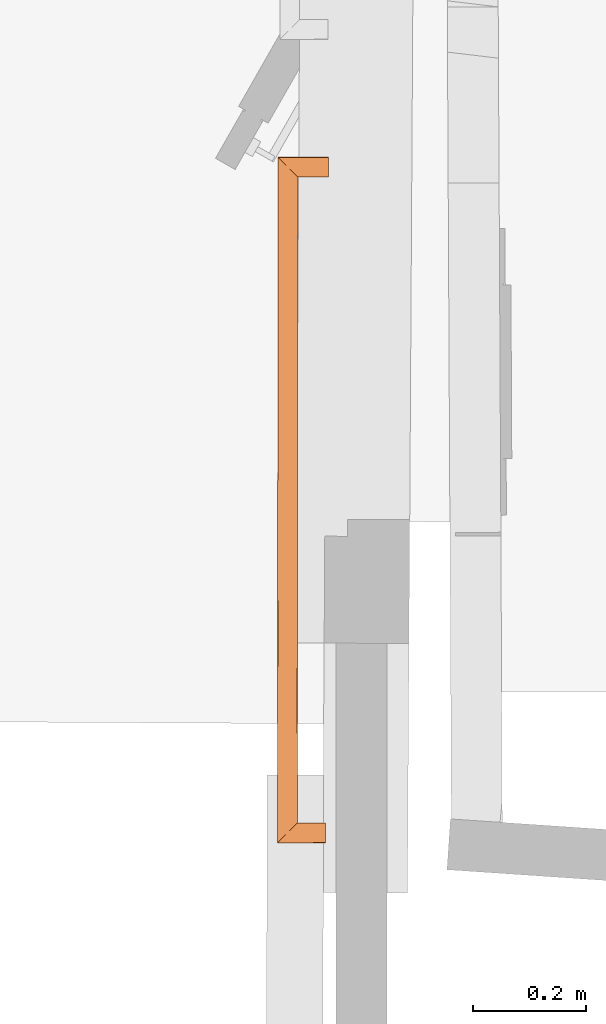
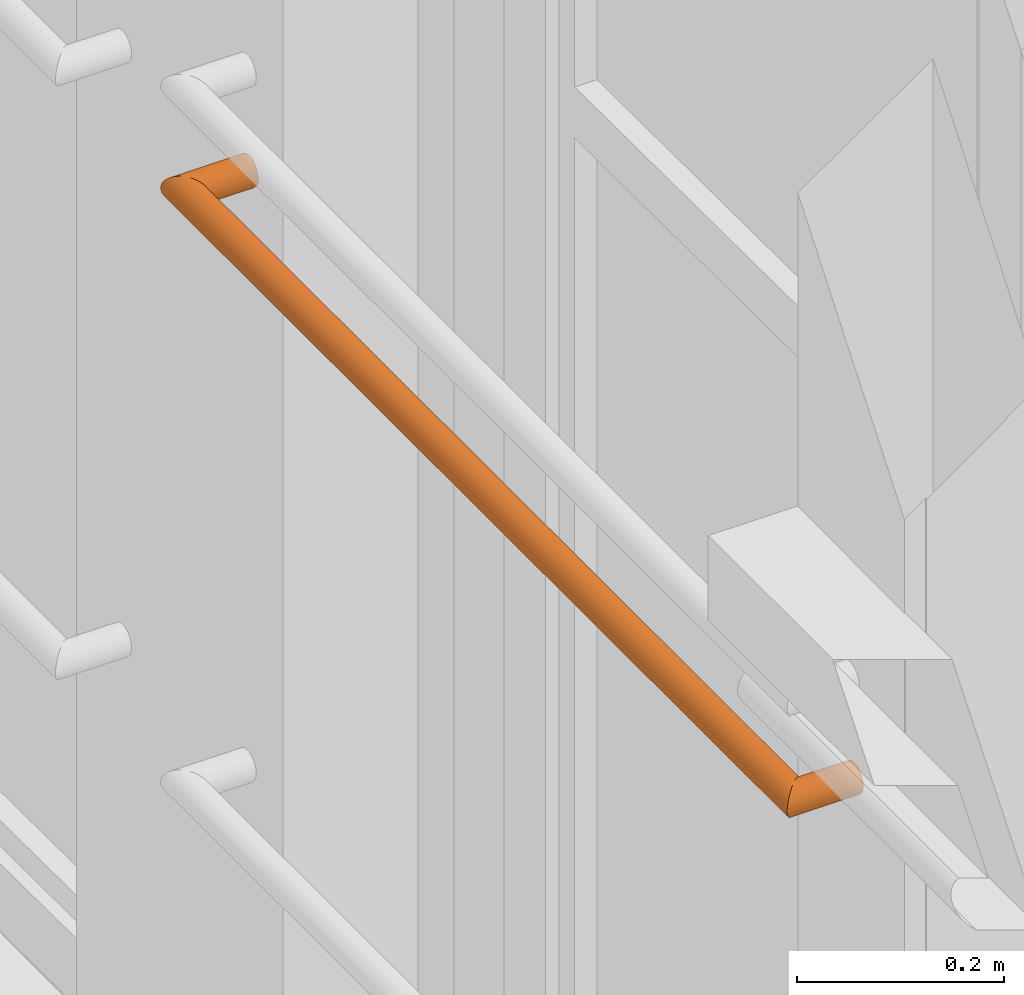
# One storey, part 85 of 97: 1 proxy.
"""IFC2X3 building model written with IfcOpenShell, lengths in centimetres."""

from ifc_helpers import new_model, entity, si_unit, converted_unit, direction, origin, origin_with_axes, place, context, subcontext, project, spatial, faceted_brep, material, type_object, element, save


model = new_model("IFC2X3")

# Units and contexts
model_context = context("Model", 3, precision=0.0001, world=origin(), true_north=direction((0.225632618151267, 0.974212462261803, 0.0)))
body_context = subcontext(model_context, "Body", "Model", "MODEL_VIEW")
ifc_project = project(units=[si_unit("LENGTHUNIT", "METRE", prefix="CENTI"), si_unit("AREAUNIT", "SQUARE_METRE", prefix="CENTI"), si_unit("VOLUMEUNIT", "CUBIC_METRE", prefix="CENTI"), converted_unit("PLANEANGLEUNIT", "DEGREE", entity("IfcRatioMeasure", 0.0174532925), si_unit("PLANEANGLEUNIT", "RADIAN"), dimensions=[0, 0, 0, 0, 0, 0, 0])], contexts=[model_context])

# Site, building, storey
site_placement = place(None, origin_with_axes())
site = spatial("IfcSite", under=ifc_project, at=site_placement, Name="Default Site", CompositionType="ELEMENT")
building_placement = place(site_placement, origin_with_axes())
building = spatial("IfcBuilding", under=site, at=building_placement, Name="Default Building", CompositionType="ELEMENT")
storey_placement = place(building_placement, origin_with_axes())
storey = spatial("IfcBuildingStorey", under=building, at=storey_placement, Name="Rez-de-chaussée", CompositionType="ELEMENT", Elevation=0.0)

# Proxy
ifc_material = material(Name="Aluminium mat")
building_element_proxy_type = type_object("IfcBuildingElementProxyType", Name="Profil [C] Ø35mm", PredefinedType="NOTDEFINED", material=ifc_material)
proxy_placement = place(storey_placement, origin_with_axes())
element("IfcBuildingElementProxy", 1, at=proxy_placement, inside=storey, type_object=building_element_proxy_type, material=ifc_material, Name="Extrusion (solide) 1702452", context=body_context, shape_type="Brep", body=[
    faceted_brep([(-1369.92702484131, -196.919238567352, 438.000011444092), (-1369.90041733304, -196.892673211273, 437.696122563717), (-1361.42692566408, -196.899515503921, 437.696122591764), (-1361.42692565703, -196.926102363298, 438.000011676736), (-1369.90041732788, -196.892666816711, 437.696123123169), (-1369.82145309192, -196.813782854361, 437.401486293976), (-1361.42692566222, -196.820560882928, 437.401484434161), (-1361.42692565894, -196.89950912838, 437.69612320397), (-1369.82145309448, -196.813786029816, 437.401485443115), (-1369.6924209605, -196.684969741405, 437.125014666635), (-1361.42673492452, -196.691644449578, 437.125015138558), (-1361.42692566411, -196.820563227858, 437.40148259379), (-1369.69242095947, -196.684968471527, 437.125015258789), (-1369.51732634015, -196.510129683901, 436.875117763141), (-1361.42663954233, -196.516662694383, 436.875117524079), (-1361.42673492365, -196.691643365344, 437.12501583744), (-1369.51732635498, -196.510148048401, 436.875104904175), (-1369.30141450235, -196.294633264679, 436.659415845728), (-1361.42644883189, -196.300995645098, 436.659419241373), (-1361.42663955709, -196.516680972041, 436.875104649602), (-1369.30141448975, -196.294617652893, 436.65943145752), (-1369.05136107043, -196.044928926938, 436.484456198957), (-1361.4262580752, -196.051082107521, 436.48445336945), (-1361.42644882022, -196.300981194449, 436.659434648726), (-1369.05136108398, -196.044945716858, 436.484432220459), (-1368.77460480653, -195.768713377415, 436.355518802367), (-1361.42606736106, -195.774649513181, 436.35551984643), (-1361.42625808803, -196.051097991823, 436.484429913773), (-1368.77460479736, -195.768702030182, 436.355543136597), (-1368.47972869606, -195.474287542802, 436.276591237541), (-1361.42578124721, -195.479985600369, 436.276591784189), (-1361.42606735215, -195.774638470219, 436.355543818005), (-1368.47972869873, -195.474290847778, 436.276578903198), (-1368.17560196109, -195.170655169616, 436.249992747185), (-1361.42559051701, -195.176103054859, 436.249992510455), (-1361.42578124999, -195.479989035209, 436.276579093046), (-1368.17560195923, -195.170652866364, 436.250019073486), (-1367.87147522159, -194.867017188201, 436.2766052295), (-1361.42530441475, -194.872214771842, 436.276605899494), (-1361.42559051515, -195.176100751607, 436.250019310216), (-1367.87147521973, -194.867014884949, 436.276578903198), (-1367.57659911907, -194.57258927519, 436.355533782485), (-1361.42511367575, -194.577560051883, 436.35553284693), (-1361.42530441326, -194.872212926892, 436.276580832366), (-1367.57659912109, -194.572591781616, 436.355543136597), (-1367.29993820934, -194.296369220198, 436.484451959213), (-1361.42482758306, -194.301113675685, 436.484451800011), (-1361.42511367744, -194.577562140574, 436.355541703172), (-1367.2999382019, -194.296360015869, 436.484432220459), (-1367.04978941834, -194.046663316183, 436.659413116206), (-1361.42463683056, -194.051205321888, 436.659413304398), (-1361.42482757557, -194.301104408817, 436.484432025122), (-1367.04978942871, -194.046676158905, 436.65943145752), (-1366.83397293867, -193.831167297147, 436.875114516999), (-1361.42444611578, -193.835532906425, 436.87511706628), (-1361.42463684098, -194.051218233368, 436.659431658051), (-1366.83397293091, -193.831157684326, 436.875104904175), (-1366.65887831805, -193.656314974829, 437.125008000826), (-1361.4243507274, -193.660543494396, 437.125005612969), (-1361.42444610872, -193.835524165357, 436.875107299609), (-1366.65887832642, -193.656325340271, 437.125015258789), (-1366.52984618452, -193.527511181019, 437.40148146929), (-1361.42425536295, -193.531634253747, 437.401480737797), (-1361.42435073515, -193.660553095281, 437.125013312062), (-1366.52984619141, -193.527519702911, 437.401485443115), (-1366.45078659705, -193.448635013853, 437.696125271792), (-1361.42416000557, -193.452694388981, 437.696123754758), (-1361.42425536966, -193.531642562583, 437.401484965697), (-1366.45078659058, -193.448626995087, 437.696123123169), (-1366.42417907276, -193.422061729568, 438.00001096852), (-1361.42416000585, -193.426099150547, 438.00001168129), (-1361.4241599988, -193.452686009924, 437.696122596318), (-1366.42417907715, -193.422067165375, 438.000011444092), (-1366.45078659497, -193.448632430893, 438.303899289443), (-1361.42416000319, -193.452691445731, 438.303899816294), (-1361.42416001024, -193.426104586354, 438.000010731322), (-1366.45078659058, -193.448626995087, 438.303899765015), (-1366.52984618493, -193.527511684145, 438.598539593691), (-1361.42425536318, -193.531634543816, 438.598540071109), (-1361.42415999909, -193.452686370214, 438.303901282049), (-1366.52984619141, -193.527519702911, 438.598537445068), (-1366.6588783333, -193.656333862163, 438.87500365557), (-1361.42435074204, -193.660561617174, 438.875005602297), (-1361.42425536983, -193.531642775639, 438.598538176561), (-1366.65887832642, -193.656325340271, 438.875007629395), (-1366.83397292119, -193.831145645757, 439.124878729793), (-1361.424446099, -193.835512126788, 439.124876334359), (-1361.42435073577, -193.660553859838, 438.875010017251), (-1366.83397293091, -193.831157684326, 439.124870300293), (-1367.0497894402, -194.046690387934, 439.34057720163), (-1361.42463685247, -194.051232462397, 439.340577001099), (-1361.42444610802, -193.835523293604, 439.124867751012), (-1367.04978942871, -194.046676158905, 439.340591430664), (-1367.29993819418, -194.29635045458, 439.515556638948), (-1361.42482756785, -194.301094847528, 439.515556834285), (-1361.42463684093, -194.05121816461, 439.340591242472), (-1367.2999382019, -194.296360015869, 439.515542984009), (-1367.57659912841, -194.572600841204, 439.644460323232), (-1361.42511368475, -194.577571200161, 439.644461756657), (-1361.42482757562, -194.301104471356, 439.515543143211), (-1367.57659912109, -194.572591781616, 439.644479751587), (-1367.87147521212, -194.86700547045, 439.723431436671), (-1361.42530440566, -194.872203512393, 439.723429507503), (-1361.42511367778, -194.577562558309, 439.644480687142), (-1367.87147521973, -194.867014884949, 439.72339630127), (-1368.17560196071, -195.170654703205, 439.749982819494), (-1361.42559051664, -195.176102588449, 439.749982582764), (-1361.42530441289, -194.87221246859, 439.723395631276), (-1368.17560195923, -195.170652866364, 439.750003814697), (-1368.47972870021, -195.47429268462, 439.723417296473), (-1361.42578125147, -195.479990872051, 439.723417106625), (-1361.42559051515, -195.176100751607, 439.750004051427), (-1368.47972869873, -195.474290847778, 439.72339630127), (-1368.77460479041, -195.768693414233, 439.644447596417), (-1361.42606734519, -195.77462985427, 439.644446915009), (-1361.42578124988, -195.479988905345, 439.723395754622), (-1368.77460479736, -195.768702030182, 439.644479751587), (-1369.05136108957, -196.044952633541, 439.515557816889), (-1361.42625809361, -196.051104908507, 439.515560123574), (-1361.4260673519, -195.774638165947, 439.644478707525), (-1369.05136108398, -196.044945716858, 439.515542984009), (-1369.30141448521, -196.294612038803, 439.340583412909), (-1361.42644881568, -196.300975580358, 439.340580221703), (-1361.42625808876, -196.051098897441, 439.515545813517), (-1369.30141448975, -196.294617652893, 439.340591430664), (-1369.51732636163, -196.510156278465, 439.12487853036), (-1361.42663956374, -196.516689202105, 439.124878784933), (-1361.42644881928, -196.300980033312, 439.34058803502), (-1369.51732635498, -196.510148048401, 439.124870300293), (-1369.69242095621, -196.684964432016, 438.875004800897), (-1361.42673492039, -196.691639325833, 438.875004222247), (-1361.42663955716, -196.516681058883, 439.124870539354), (-1369.69242095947, -196.684968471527, 438.875007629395), (-1369.82145309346, -196.813784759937, 438.598536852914), (-1361.42692566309, -196.82056195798, 438.59853970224), (-1361.4267349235, -196.6916431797, 438.875007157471), (-1369.82145309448, -196.813786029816, 438.598537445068), (-1369.90041733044, -196.892669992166, 438.303900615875), (-1361.4269256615, -196.899512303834, 438.303900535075), (-1361.42692566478, -196.820564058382, 438.598539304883), (-1369.90041732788, -196.892666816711, 438.303899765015), (-1369.92702483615, -196.91923217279, 438.00001088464), (-1361.42692565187, -196.926095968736, 438.000010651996), (-1361.42692565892, -196.899509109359, 438.303899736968), (-1369.82917785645, -75.7247388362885, 438.000011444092), (-1369.80261221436, -75.7513284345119, 437.6961194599), (-1369.90043326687, -196.892666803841, 437.696121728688), (-1369.92704151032, -196.919238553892, 438.000009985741), (-1369.80257034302, -75.7513284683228, 437.696123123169), (-1369.72368716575, -75.830274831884, 437.401489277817), (-1369.82138447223, -196.813786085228, 437.401503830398), (-1369.90039294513, -196.8926668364, 437.696129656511), (-1369.72370147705, -75.8302748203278, 437.401485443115), (-1369.59488085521, -75.9591936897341, 437.125005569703), (-1369.69237964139, -196.684968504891, 437.125034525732), (-1369.82140527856, -196.813786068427, 437.401507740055), (-1369.5948600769, -75.9591937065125, 437.125015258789), (-1369.42002514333, -76.1341631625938, 436.875123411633), (-1369.51725164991, -196.510148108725, 436.875157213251), (-1369.69237023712, -196.684968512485, 437.125050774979), (-1369.42005157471, -76.1341631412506, 436.875104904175), (-1369.20453670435, -76.3498604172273, 436.659415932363), (-1369.30141067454, -196.294617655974, 436.659435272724), (-1369.51729038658, -196.510148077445, 436.875140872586), (-1369.2045211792, -76.3498604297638, 436.65943145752), (-1368.95483240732, -76.5997409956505, 436.484456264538), (-1369.05132430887, -196.044945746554, 436.48448474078), (-1369.30140176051, -196.294617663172, 436.659449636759), (-1368.95484924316, -76.5997409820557, 436.484432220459), (-1368.67866582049, -76.8762052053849, 436.355541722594), (-1368.77461711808, -195.768702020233, 436.355516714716), (-1369.05135025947, -196.044945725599, 436.484455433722), (-1368.67866516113, -76.8762052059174, 436.355543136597), (-1368.38426178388, -77.1708548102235, 436.276594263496), (-1368.47972903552, -195.474290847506, 436.276577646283), (-1368.77460917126, -195.76870202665, 436.355526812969), (-1368.38426589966, -77.1708548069, 436.276578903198), (-1368.08061838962, -77.4747371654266, 436.249991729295), (-1368.17560475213, -195.170652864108, 436.249987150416), (-1368.47972920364, -195.474290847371, 436.276573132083), (-1368.08061599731, -77.4747371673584, 436.250019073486), (-1367.77696848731, -77.7786254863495, 436.276606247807), (-1367.87147790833, -194.867014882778, 436.276609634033), (-1368.17560235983, -195.17065286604, 436.250023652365), (-1367.77696609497, -77.7786254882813, 436.276578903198), (-1367.48256271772, -78.0732750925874, 436.355527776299), (-1367.57659769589, -194.572591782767, 436.355537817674), (-1367.87147783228, -194.867014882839, 436.276588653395), (-1367.4825668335, -78.0732750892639, 436.355543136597), (-1367.2063050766, -78.349739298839, 436.484470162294), (-1367.29995148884, -194.29636000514, 436.484460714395), (-1367.57660629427, -194.572591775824, 436.355558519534), (-1367.20628738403, -78.3497393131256, 436.484432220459), (-1366.95659861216, -78.5996198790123, 436.659407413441), (-1367.04978863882, -194.046676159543, 436.659430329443), (-1367.29993008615, -194.296360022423, 436.484420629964), (-1366.956615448, -78.5996198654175, 436.65943145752), (-1366.74110057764, -78.8153171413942, 436.875120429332), (-1366.8339817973, -193.831157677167, 436.875113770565), (-1367.04981382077, -194.046676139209, 436.65945584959), (-1366.74108505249, -78.8153171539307, 436.875104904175), (-1366.56625011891, -78.990286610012, 437.124996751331), (-1366.65884539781, -193.656325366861, 437.124992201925), (-1366.83396399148, -193.831157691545, 436.875098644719), (-1366.56627655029, -78.9902865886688, 437.125015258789), (-1366.4374559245, -79.1191994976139, 437.401495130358), (-1366.52984473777, -193.527519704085, 437.401484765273), (-1366.65887036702, -193.656325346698, 437.125011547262), (-1366.43743515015, -79.119199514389, 437.401485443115), (-1366.35855197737, -79.1981518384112, 437.696119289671), (-1366.45080607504, -193.448626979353, 437.696128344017), (-1366.52982094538, -193.527519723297, 437.401478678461), (-1366.35856628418, -79.1981518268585, 437.696123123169), (-1366.33200064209, -79.224741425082, 438.00001510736), (-1366.42421430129, -193.422067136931, 438.000014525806), (-1366.45082253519, -193.448626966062, 437.696126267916), (-1366.33195877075, -79.2247414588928, 438.000011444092), (-1366.35852441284, -79.1981518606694, 438.303903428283), (-1366.45078066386, -193.448626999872, 438.303900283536), (-1366.42417242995, -193.422067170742, 438.000012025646), (-1366.35856628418, -79.1981518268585, 438.303899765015), (-1366.43744945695, -79.1191995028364, 438.59853361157), (-1366.52983525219, -193.527519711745, 438.598540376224), (-1366.45082038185, -193.4486269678, 438.303890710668), (-1366.43743515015, -79.119199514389, 438.598537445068), (-1366.56625577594, -78.990286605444, 438.875017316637), (-1366.65884959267, -193.656325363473, 438.875021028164), (-1366.52982396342, -193.52751972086, 438.598547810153), (-1366.56627655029, -78.9902865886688, 438.875007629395), (-1366.74108907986, -78.8153171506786, 439.124867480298), (-1366.83396801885, -193.831157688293, 439.124873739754), (-1366.65887182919, -193.656325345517, 438.875012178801), (-1366.74108505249, -78.8153171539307, 439.124870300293), (-1366.9566237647, -78.5996198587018, 439.340583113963), (-1367.04982213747, -194.046676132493, 439.340558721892), (-1366.83396627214, -193.831157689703, 439.12487695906), (-1366.956615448, -78.5996198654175, 439.340591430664), (-1367.20628181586, -78.3497393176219, 439.515550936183), (-1367.29992451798, -194.296360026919, 439.515562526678), (-1367.04980547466, -194.046676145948, 439.340568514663), (-1367.20628738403, -78.3497393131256, 439.515542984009), (-1367.48256740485, -78.0732750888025, 439.644478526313), (-1367.57660686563, -194.572591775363, 439.644463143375), (-1367.29993379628, -194.296360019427, 439.515552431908), (-1367.4825668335, -78.0732750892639, 439.644479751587), (-1367.77695828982, -77.7786254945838, 439.723425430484), (-1367.87147002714, -194.867014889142, 439.723415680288), (-1367.57660181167, -194.572591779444, 439.644469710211), (-1367.77696609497, -77.7786254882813, 439.72339630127), (-1368.08061774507, -77.4747371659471, 439.749983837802), (-1368.17560410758, -195.170652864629, 439.749979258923), (-1367.87147551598, -194.86701488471, 439.723392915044), (-1368.08061599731, -77.4747371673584, 439.750003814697), (-1368.38426764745, -77.1708548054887, 439.723416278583), (-1368.47973095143, -195.474290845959, 439.723422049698), (-1368.17560235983, -195.17065286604, 439.750008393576), (-1368.38426589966, -77.1708548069, 439.72339630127), (-1368.67865735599, -76.87620521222, 439.644450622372), (-1368.77460136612, -195.768702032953, 439.644466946), (-1368.4797331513, -195.474290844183, 439.723412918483), (-1368.67866516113, -76.8762052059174, 439.644479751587), (-1368.95486684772, -76.5997409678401, 439.515580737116), (-1369.05136786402, -196.044945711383, 439.515557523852), (-1368.77461645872, -195.768702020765, 439.644504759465), (-1368.95484924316, -76.5997409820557, 439.515542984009), (-1369.20451561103, -76.3498604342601, 439.34058347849), (-1369.30139619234, -196.294617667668, 439.34056529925), (-1369.05134114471, -196.044945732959, 439.515514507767), (-1369.2045211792, -76.3498604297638, 439.340591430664), (-1369.42005989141, -76.1341631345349, 439.124878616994), (-1369.51729870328, -196.510148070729, 439.124842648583), (-1369.30139514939, -196.29461766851, 439.340572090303), (-1369.42005157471, -76.1341631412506, 439.124870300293), (-1369.59486410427, -75.9591937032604, 438.875010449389), (-1369.69237426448, -196.684968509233, 438.874974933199), (-1369.51727808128, -196.510148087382, 439.124836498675), (-1369.5948600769, -75.9591937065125, 438.875007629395), (-1369.72368069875, -75.8302748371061, 438.598527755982), (-1369.82138450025, -196.813786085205, 438.598505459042), (-1369.69235886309, -196.68496852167, 438.874978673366), (-1369.72370147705, -75.8302748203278, 438.598537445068), (-1369.80258465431, -75.7513284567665, 438.303903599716), (-1369.90040725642, -196.892666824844, 438.303897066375), (-1369.82139878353, -196.813786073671, 438.598522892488), (-1369.80257034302, -75.7513284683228, 438.303899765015), (-1369.82913598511, -75.7247388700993, 438.000007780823), (-1369.92699963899, -196.919238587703, 438.000009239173), (-1369.90039139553, -196.892666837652, 438.303897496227), (-1360.93921661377, -75.7247388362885, 438.000011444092), (-1360.93921661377, -75.7513256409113, 437.696122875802), (-1369.80257034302, -75.7513256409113, 437.696122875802), (-1369.82917785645, -75.7247388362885, 438.000011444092), (-1360.93921661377, -75.7513284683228, 437.696123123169), (-1360.93921661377, -75.8302762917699, 437.401485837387), (-1369.72370147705, -75.8302762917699, 437.401485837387), (-1360.93921661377, -75.8302748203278, 437.401485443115), (-1360.93921661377, -75.959194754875, 437.125015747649), (-1369.5948600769, -75.9591947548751, 437.125015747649), (-1360.93921661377, -75.9591937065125, 437.125015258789), (-1360.93921661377, -76.1341763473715, 436.8751141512), (-1369.42005157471, -76.1341763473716, 436.8751141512), (-1369.5948600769, -75.9591937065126, 437.125015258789), (-1360.93921661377, -76.1341631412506, 436.875104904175), (-1360.93921661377, -76.3498485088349, 436.659419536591), (-1369.2045211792, -76.349848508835, 436.659419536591), (-1369.42005157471, -76.1341631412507, 436.875104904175), (-1360.93921661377, -76.3498604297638, 436.65943145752), (-1360.93921661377, -76.5997555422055, 436.484453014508), (-1368.95484924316, -76.5997555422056, 436.484453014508), (-1369.2045211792, -76.3498604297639, 436.65943145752), (-1360.93921661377, -76.5997409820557, 436.484432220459), (-1360.93921661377, -76.8761943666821, 436.355519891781), (-1368.67866516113, -76.8761943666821, 436.355519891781), (-1360.93921661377, -76.8762052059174, 436.355543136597), (-1360.93921661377, -77.1708580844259, 436.276591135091), (-1368.38426589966, -77.1708580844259, 436.276591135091), (-1360.93921661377, -77.1708548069, 436.276578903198), (-1360.93921661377, -77.4747348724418, 436.24999284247), (-1368.08061599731, -77.4747348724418, 436.24999284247), (-1360.93921661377, -77.4747371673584, 436.250019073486), (-1360.93921661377, -77.7786231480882, 436.276605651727), (-1367.77696609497, -77.7786231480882, 436.276605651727), (-1360.93921661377, -77.7786254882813, 436.276578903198), (-1360.93921661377, -78.0732783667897, 436.355530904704), (-1367.4825668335, -78.0732783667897, 436.355530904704), (-1367.77696609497, -77.7786254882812, 436.276578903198), (-1360.93921661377, -78.0732750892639, 436.355543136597), (-1360.93921661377, -78.3497284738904, 436.484455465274), (-1367.20628738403, -78.3497284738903, 436.484455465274), (-1360.93921661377, -78.3497393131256, 436.484432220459), (-1360.93921661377, -78.5996344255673, 436.659410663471), (-1366.956615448, -78.5996344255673, 436.659410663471), (-1360.93921661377, -78.5996198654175, 436.65943145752), (-1360.93921661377, -78.8153052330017, 436.875116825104), (-1366.74108505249, -78.8153052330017, 436.875116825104), (-1366.956615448, -78.5996198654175, 436.65943145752), (-1360.93921661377, -78.8153171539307, 436.875104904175), (-1360.93921661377, -78.9902997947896, 437.125006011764), (-1366.56627655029, -78.9902997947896, 437.125006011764), (-1366.74108505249, -78.8153171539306, 436.875104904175), (-1360.93921661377, -78.9902865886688, 437.125015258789), (-1360.93921661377, -79.1192054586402, 437.401482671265), (-1366.43743515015, -79.1192054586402, 437.401482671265), (-1360.93921661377, -79.119199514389, 437.401485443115), (-1360.93921661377, -79.1981477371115, 437.696124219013), (-1366.35856628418, -79.1981477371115, 437.696124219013), (-1360.93921661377, -79.1981518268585, 437.696123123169), (-1360.93921661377, -79.2247386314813, 438.000011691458), (-1366.33195877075, -79.2247386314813, 438.000011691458), (-1360.93921661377, -79.2247414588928, 438.000011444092), (-1360.93921661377, -79.19815465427, 438.303900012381), (-1366.35856628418, -79.19815465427, 438.303900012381), (-1360.93921661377, -79.1981518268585, 438.303899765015), (-1360.93921661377, -79.119203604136, 438.598538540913), (-1366.43743515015, -79.1192036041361, 438.598538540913), (-1360.93921661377, -79.119199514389, 438.598537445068), (-1360.93921661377, -78.9902806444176, 438.875004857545), (-1366.56627655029, -78.9902806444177, 438.875004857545), (-1366.43743515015, -79.1191995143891, 438.598537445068), (-1360.93921661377, -78.9902865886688, 438.875007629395), (-1360.93921661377, -78.8153263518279, 439.12487674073), (-1366.74108505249, -78.8153263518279, 439.12487674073), (-1366.56627655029, -78.9902865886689, 438.875007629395), (-1360.93921661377, -78.8153171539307, 439.124870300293), (-1360.93921661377, -78.5996079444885, 439.340579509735), (-1366.956615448, -78.5996079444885, 439.340579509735), (-1360.93921661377, -78.5996198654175, 439.340591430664), (-1360.93921661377, -78.3497471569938, 439.515554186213), (-1367.20628738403, -78.3497471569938, 439.515554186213), (-1360.93921661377, -78.3497393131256, 439.515542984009), (-1360.93921661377, -78.0732676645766, 439.644463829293), (-1367.4825668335, -78.0732676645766, 439.644463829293), (-1360.93921661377, -78.0732750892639, 439.644479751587), (-1360.93921661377, -77.7786341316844, 439.723428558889), (-1367.77696609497, -77.7786341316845, 439.723428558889), (-1360.93921661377, -77.7786254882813, 439.72339630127), (-1360.93921661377, -77.4747353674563, 439.749983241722), (-1368.08061599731, -77.4747353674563, 439.749983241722), (-1360.93921661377, -77.4747371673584, 439.750003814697), (-1360.93921661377, -77.1708529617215, 439.723417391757), (-1368.38426589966, -77.1708529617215, 439.723417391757), (-1360.93921661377, -77.1708548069, 439.72339630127), (-1360.93921661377, -76.8762138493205, 439.644447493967), (-1368.67866516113, -76.8762138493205, 439.644447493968), (-1360.93921661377, -76.8762052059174, 439.644479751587), (-1360.93921661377, -76.5997335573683, 439.515558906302), (-1368.95484924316, -76.5997335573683, 439.515558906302), (-1368.67866516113, -76.8762052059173, 439.644479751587), (-1360.93921661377, -76.5997409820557, 439.515542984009), (-1360.93921661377, -76.3498682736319, 439.340580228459), (-1369.2045211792, -76.3498682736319, 439.34058022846), (-1368.95484924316, -76.5997409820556, 439.515542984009), (-1360.93921661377, -76.3498604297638, 439.340591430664), (-1360.93921661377, -76.1341512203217, 439.124882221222), (-1369.42005157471, -76.1341512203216, 439.124882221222), (-1369.2045211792, -76.3498604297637, 439.340591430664), (-1360.93921661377, -76.1341631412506, 439.124870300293), (-1360.93921661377, -75.9592029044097, 438.875001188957), (-1369.5948600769, -75.9592029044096, 438.875001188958), (-1369.42005157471, -76.1341631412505, 439.124870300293), (-1360.93921661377, -75.9591937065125, 438.875007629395), (-1360.93921661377, -75.8302737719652, 438.598537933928), (-1369.72370147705, -75.8302737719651, 438.598537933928), (-1360.93921661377, -75.8302748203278, 438.598537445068), (-1360.93921661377, -75.7513269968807, 438.303900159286), (-1369.80257034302, -75.7513269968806, 438.303900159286), (-1369.72370147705, -75.8302748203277, 438.598537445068), (-1360.93921661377, -75.7513284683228, 438.303899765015), (-1360.93921661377, -75.7247416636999, 438.000011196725), (-1369.82917785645, -75.7247416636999, 438.000011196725), (-1369.80257034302, -75.7513284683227, 438.303899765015), (-1361.42692565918, -196.92610502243, 438.000011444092), (-1361.42690418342, -196.899509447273, 437.696123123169), (-1361.42684042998, -196.820557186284, 437.401485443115), (-1361.42673633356, -196.691644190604, 437.125015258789), (-1361.42659505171, -196.516680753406, 436.875104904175), (-1361.42642087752, -196.30098345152, 436.65943145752), (-1361.42621909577, -196.051096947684, 436.484432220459), (-1361.42599585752, -195.774638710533, 436.355543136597), (-1361.42575792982, -195.47998907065, 436.276578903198), (-1361.42551254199, -195.176100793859, 436.250019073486), (-1361.42526715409, -194.872212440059, 436.276578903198), (-1361.42502922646, -194.577562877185, 436.355543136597), (-1361.42480598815, -194.301104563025, 436.484432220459), (-1361.4246042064, -194.051218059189, 436.65943145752), (-1361.42443003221, -193.835520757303, 436.875104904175), (-1361.42428875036, -193.660557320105, 437.125015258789), (-1361.42418465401, -193.531644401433, 437.401485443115), (-1361.4241209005, -193.452692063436, 437.696123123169), (-1361.42409942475, -193.426096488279, 438.000011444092), (-1361.4241209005, -193.452692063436, 438.303899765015), (-1361.42418465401, -193.531644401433, 438.598537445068), (-1361.42428875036, -193.660557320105, 438.875007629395), (-1361.42443003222, -193.835520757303, 439.124870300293), (-1361.42460420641, -194.051218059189, 439.340591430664), (-1361.42480598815, -194.301104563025, 439.515542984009), (-1361.42502922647, -194.577562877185, 439.644479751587), (-1361.4252671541, -194.872212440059, 439.72339630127), (-1361.425512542, -195.176100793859, 439.750003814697), (-1361.42575792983, -195.47998907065, 439.72339630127), (-1361.42599585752, -195.774638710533, 439.644479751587), (-1361.42621909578, -196.051096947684, 439.515542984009), (-1361.42642087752, -196.30098345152, 439.340591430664), (-1361.42659505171, -196.516680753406, 439.124870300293), (-1361.42673633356, -196.691644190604, 438.875007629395), (-1361.42684042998, -196.820557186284, 438.598537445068), (-1361.42690418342, -196.899509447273, 438.303899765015)], [[[0, 1, 2, 3]], [[4, 5, 6, 7]], [[8, 9, 10, 11]], [[12, 13, 14, 15]], [[16, 17, 18, 19]], [[20, 21, 22, 23]], [[24, 25, 26, 27]], [[28, 29, 30, 31]], [[32, 33, 34, 35]], [[36, 37, 38, 39]], [[40, 41, 42, 43]], [[44, 45, 46, 47]], [[48, 49, 50, 51]], [[52, 53, 54, 55]], [[56, 57, 58, 59]], [[60, 61, 62, 63]], [[64, 65, 66, 67]], [[68, 69, 70, 71]], [[72, 73, 74, 75]], [[76, 77, 78, 79]], [[80, 81, 82, 83]], [[84, 85, 86, 87]], [[88, 89, 90, 91]], [[92, 93, 94, 95]], [[96, 97, 98, 99]], [[100, 101, 102, 103]], [[104, 105, 106, 107]], [[108, 109, 110, 111]], [[112, 113, 114, 115]], [[116, 117, 118, 119]], [[120, 121, 122, 123]], [[124, 125, 126, 127]], [[128, 129, 130, 131]], [[132, 133, 134, 135]], [[136, 137, 138, 139]], [[140, 141, 142, 143]], [[144, 145, 146, 147]], [[148, 149, 150, 151]], [[152, 153, 154, 155]], [[156, 157, 158, 159]], [[160, 161, 162, 163]], [[164, 165, 166, 167]], [[168, 169, 170, 171]], [[172, 173, 174, 175]], [[176, 177, 178, 179]], [[180, 181, 182, 183]], [[184, 185, 186, 187]], [[188, 189, 190, 191]], [[192, 193, 194, 195]], [[196, 197, 198, 199]], [[200, 201, 202, 203]], [[204, 205, 206, 207]], [[208, 209, 210, 211]], [[212, 213, 214, 215]], [[216, 217, 218, 219]], [[220, 221, 222, 223]], [[224, 225, 226, 227]], [[228, 229, 230, 231]], [[232, 233, 234, 235]], [[236, 237, 238, 239]], [[240, 241, 242, 243]], [[244, 245, 246, 247]], [[248, 249, 250, 251]], [[252, 253, 254, 255]], [[256, 257, 258, 259]], [[260, 261, 262, 263]], [[264, 265, 266, 267]], [[268, 269, 270, 271]], [[272, 273, 274, 275]], [[276, 277, 278, 279]], [[280, 281, 282, 283]], [[284, 285, 286, 287]], [[288, 289, 290, 291]], [[292, 293, 294, 148]], [[295, 296, 297, 152]], [[298, 299, 300, 301]], [[302, 303, 304, 305]], [[306, 307, 308, 309]], [[310, 311, 312, 168]], [[313, 314, 315, 172]], [[316, 317, 318, 176]], [[319, 320, 321, 180]], [[322, 323, 324, 325]], [[326, 327, 328, 188]], [[329, 330, 331, 192]], [[332, 333, 334, 335]], [[336, 337, 338, 339]], [[340, 341, 342, 204]], [[343, 344, 345, 208]], [[346, 347, 348, 212]], [[349, 350, 351, 216]], [[352, 353, 354, 220]], [[355, 356, 357, 358]], [[359, 360, 361, 362]], [[363, 364, 365, 232]], [[366, 367, 368, 236]], [[369, 370, 371, 240]], [[372, 373, 374, 244]], [[375, 376, 377, 248]], [[378, 379, 380, 252]], [[381, 382, 383, 256]], [[384, 385, 386, 387]], [[388, 389, 390, 391]], [[392, 393, 394, 395]], [[396, 397, 398, 399]], [[400, 401, 402, 276]], [[403, 404, 405, 406]], [[407, 408, 409, 410]], [[411, 412, 413, 414, 415, 416, 417, 418, 419, 420, 421, 422, 423, 424, 425, 426, 427, 428, 429, 430, 431, 432, 433, 434, 435, 436, 437, 438, 439, 440, 441, 442, 443, 444, 445, 446]], [[407, 403, 400, 396, 392, 388, 384, 381, 378, 375, 372, 369, 366, 363, 359, 355, 352, 349, 346, 343, 340, 336, 332, 329, 326, 322, 319, 316, 313, 310, 306, 302, 298, 295, 292, 288]]]),
])

save(model, "model.ifc")
